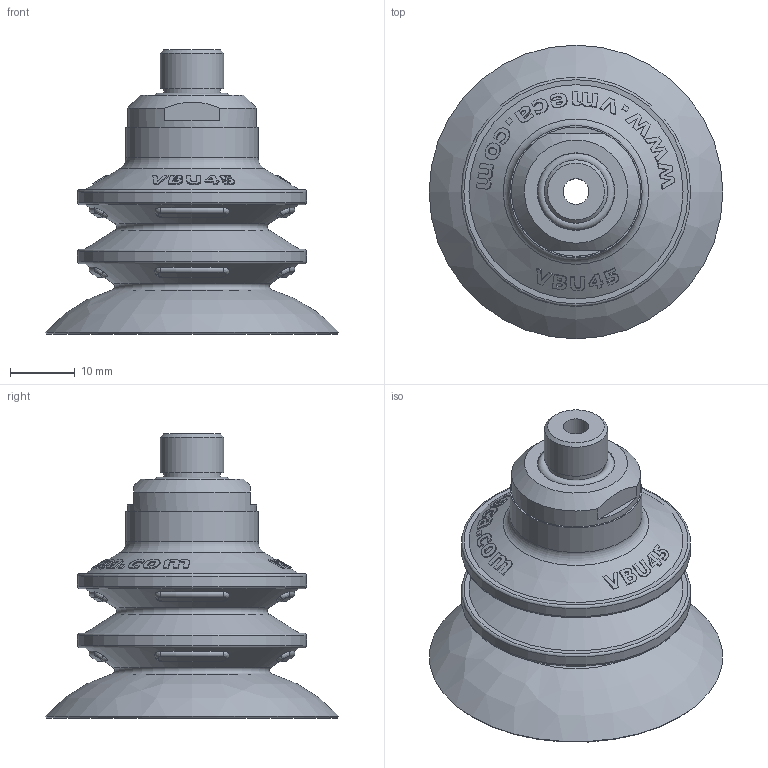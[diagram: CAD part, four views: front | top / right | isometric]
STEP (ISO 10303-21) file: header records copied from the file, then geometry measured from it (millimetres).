
FILE_DESCRIPTION( ( 'Unknown' ), '1' );
FILE_NAME( 'D:/New PAD/3欽 寨煎辦鍔/3D/VBU45/STP/VBU45.. - 18M.stp', 'Unknown', ( 'Unknown' ), ( 'Unknown' ), 'PSStep 10.0', 'Unknown', ' ' );
FILE_SCHEMA( ( 'automotive_design' ) );
Length unit declared in the file: millimetre
Products named in the file (1): 18M-30,40
Bounding box: 45.5 x 45.5 x 44 mm (x, y, z)
Volume: 11965.4 mm3; surface area: 10237.7 mm2
Topology: 1 solids, 1 shells, 341 faces, 874 edges, 574 vertices
Faces by surface type: bspline 207, cone 46, torus 38, plane 31, cylinder 19
Full cylindrical faces by diameter (mm): 4 x1, 8.8 x1, 9.8 x1, 11 x1, 12 x1, 18.979 x2, 20 x1, 20.5 x1, 35.5 x2
Entity records: 24002 total; most frequent: CARTESIAN_POINT 14885, ORIENTED_EDGE 1638, EDGE_CURVE 819, DIRECTION 680, B_SPLINE_CURVE_WITH_KNOTS 591, VERTEX_POINT 564, EDGE_LOOP 427, FACE_OUTER_BOUND 370
